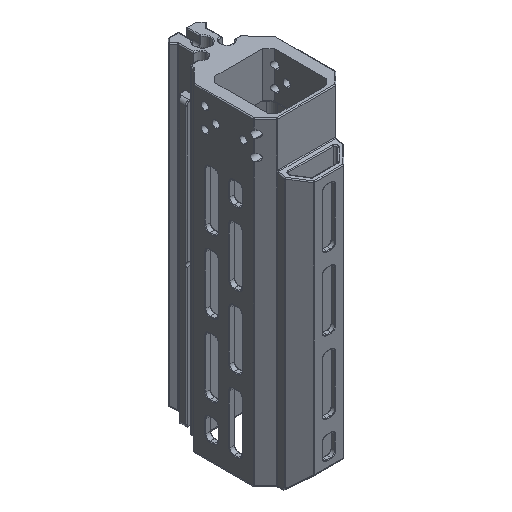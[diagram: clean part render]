
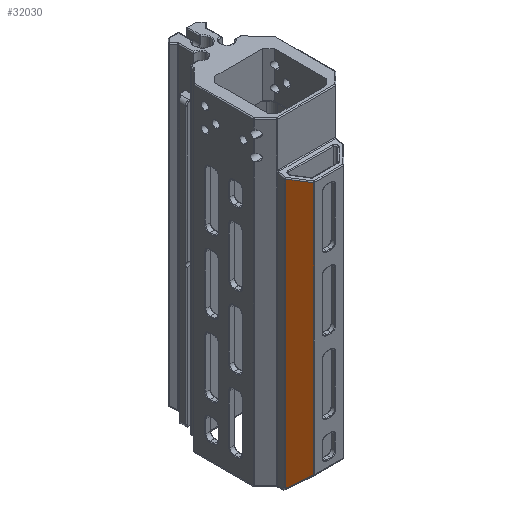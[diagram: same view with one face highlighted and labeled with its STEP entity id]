
A CAD part, isometric view. The second image highlights one B-rep face of the part: STEP entity #32030.
In plain terms, the highlighted planar face has unit normal (-0.707, -0.707, 0).
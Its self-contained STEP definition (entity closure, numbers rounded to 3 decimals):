
#24 = ORIENTED_EDGE ( 'NONE', *, *, #21759, .T. ) ;
#2345 = CARTESIAN_POINT ( 'NONE',  ( -16.862, -3.838, -175.542 ) ) ;
#4393 = DIRECTION ( 'NONE',  ( 0.707, -0.707, 0. ) ) ;
#4798 = ORIENTED_EDGE ( 'NONE', *, *, #27028, .T. ) ;
#5652 = LINE ( 'NONE', #16729, #46156 ) ;
#5778 = VERTEX_POINT ( 'NONE', #47697 ) ;
#6110 = EDGE_CURVE ( 'NONE', #14197, #22872, #44891, .T. ) ;
#6191 = DIRECTION ( 'NONE',  ( 0.608, -0.608, 0.51 ) ) ;
#6834 = ORIENTED_EDGE ( 'NONE', *, *, #45826, .T. ) ;
#7196 = CARTESIAN_POINT ( 'NONE',  ( -16.085, -4.615, -174.799 ) ) ;
#8401 = VERTEX_POINT ( 'NONE', #28369 ) ;
#9208 = VERTEX_POINT ( 'NONE', #38283 ) ;
#10313 = CARTESIAN_POINT ( 'NONE',  ( -16.104, -4.596, -174.713 ) ) ;
#10926 =( BOUNDED_CURVE ( )  B_SPLINE_CURVE ( 3, ( #25604, #10313, #7196, #22013 ),
 .UNSPECIFIED., .F., .F. ) 
 B_SPLINE_CURVE_WITH_KNOTS ( ( 4, 4 ),
 ( 2.57, 3.042 ),
 .UNSPECIFIED. ) 
 CURVE ( )  GEOMETRIC_REPRESENTATION_ITEM ( )  RATIONAL_B_SPLINE_CURVE ( ( 1., 0.982, 0.982, 1. ) ) 
 REPRESENTATION_ITEM ( '' )  );
#11789 = CARTESIAN_POINT ( 'NONE',  ( -16.25, -4.45, -177. ) ) ;
#11924 = EDGE_CURVE ( 'NONE', #9208, #8401, #23923, .T. ) ;
#12265 = VECTOR ( 'NONE', #25862, 1000. ) ;
#13908 = VERTEX_POINT ( 'NONE', #35620 ) ;
#14197 = VERTEX_POINT ( 'NONE', #48534 ) ;
#16729 = CARTESIAN_POINT ( 'NONE',  ( -8.396, -12.304, -177. ) ) ;
#16924 = AXIS2_PLACEMENT_3D ( 'NONE', #11789, #19100, #4393 ) ;
#17573 = ORIENTED_EDGE ( 'NONE', *, *, #6110, .T. ) ;
#17887 = CARTESIAN_POINT ( 'NONE',  ( -16.104, -4.596, -26.904 ) ) ;
#18670 = CARTESIAN_POINT ( 'NONE',  ( -16.104, -4.596, -177. ) ) ;
#19100 = DIRECTION ( 'NONE',  ( -0.707, -0.707, 0. ) ) ;
#19822 = DIRECTION ( 'NONE',  ( -0.699, 0.699, 0.155 ) ) ;
#19972 = LINE ( 'NONE', #18670, #12265 ) ;
#21759 = EDGE_CURVE ( 'NONE', #8401, #13908, #5652, .T. ) ;
#22013 = CARTESIAN_POINT ( 'NONE',  ( -16.049, -4.651, -174.861 ) ) ;
#22872 = VERTEX_POINT ( 'NONE', #17887 ) ;
#23923 = LINE ( 'NONE', #2345, #35075 ) ;
#25134 = ORIENTED_EDGE ( 'NONE', *, *, #26254, .T. ) ;
#25604 = CARTESIAN_POINT ( 'NONE',  ( -16.104, -4.596, -174.61 ) ) ;
#25862 = DIRECTION ( 'NONE',  ( 0., 0., -1. ) ) ;
#26254 = EDGE_CURVE ( 'NONE', #22872, #5778, #19972, .T. ) ;
#26674 = EDGE_LOOP ( 'NONE', ( #25134, #4798, #47794, #24, #6834, #17573 ) ) ;
#27028 = EDGE_CURVE ( 'NONE', #5778, #9208, #10926, .T. ) ;
#27486 = CARTESIAN_POINT ( 'NONE',  ( -0.007, -20.693, -30.465 ) ) ;
#28369 = CARTESIAN_POINT ( 'NONE',  ( -8.396, -12.304, -168.439 ) ) ;
#29757 = VECTOR ( 'NONE', #19822, 1000. ) ;
#31489 = LINE ( 'NONE', #27486, #29757 ) ;
#32030 = ADVANCED_FACE ( 'NONE', ( #32562 ), #41541, .T. ) ;
#32562 = FACE_OUTER_BOUND ( 'NONE', #26674, .T. ) ;
#34878 = CARTESIAN_POINT ( 'NONE',  ( -16.104, -4.596, -26.901 ) ) ;
#35075 = VECTOR ( 'NONE', #6191, 1000. ) ;
#35366 = CARTESIAN_POINT ( 'NONE',  ( -16.104, -4.596, -26.904 ) ) ;
#35438 = DIRECTION ( 'NONE',  ( 0., 0., 1. ) ) ;
#35620 = CARTESIAN_POINT ( 'NONE',  ( -8.396, -12.304, -28.605 ) ) ;
#38283 = CARTESIAN_POINT ( 'NONE',  ( -16.049, -4.651, -174.861 ) ) ;
#41541 = PLANE ( 'NONE',  #16924 ) ;
#42110 = CARTESIAN_POINT ( 'NONE',  ( -16.103, -4.597, -26.899 ) ) ;
#42734 = CARTESIAN_POINT ( 'NONE',  ( -16.103, -4.597, -26.896 ) ) ;
#44891 =( BOUNDED_CURVE ( )  B_SPLINE_CURVE ( 3, ( #42734, #42110, #34878, #35366 ),
 .UNSPECIFIED., .F., .F. ) 
 B_SPLINE_CURVE_WITH_KNOTS ( ( 4, 4 ),
 ( 3.201, 3.355 ),
 .UNSPECIFIED. ) 
 CURVE ( )  GEOMETRIC_REPRESENTATION_ITEM ( )  RATIONAL_B_SPLINE_CURVE ( ( 1., 0.998, 0.998, 1. ) ) 
 REPRESENTATION_ITEM ( '' )  );
#45826 = EDGE_CURVE ( 'NONE', #13908, #14197, #31489, .T. ) ;
#46156 = VECTOR ( 'NONE', #35438, 1000. ) ;
#47697 = CARTESIAN_POINT ( 'NONE',  ( -16.104, -4.596, -174.61 ) ) ;
#47794 = ORIENTED_EDGE ( 'NONE', *, *, #11924, .T. ) ;
#48534 = CARTESIAN_POINT ( 'NONE',  ( -16.103, -4.597, -26.896 ) ) ;
